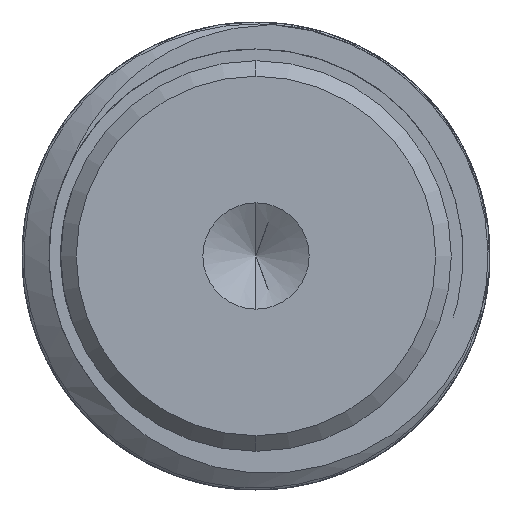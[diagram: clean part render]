
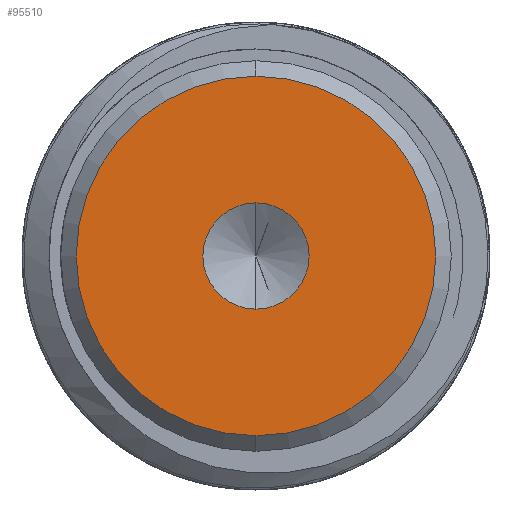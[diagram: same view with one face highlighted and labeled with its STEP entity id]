
A CAD part, left-side view. The second image highlights one B-rep face of the part: STEP entity #95510.
In plain terms, the highlighted planar face has unit normal (-1, 0, 0).
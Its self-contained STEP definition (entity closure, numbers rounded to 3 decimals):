
#2413 = CIRCLE ( 'NONE', #48532, 3.4 ) ;
#5597 = ORIENTED_EDGE ( 'NONE', *, *, #39551, .T. ) ;
#8912 = FACE_BOUND ( 'NONE', #89609, .T. ) ;
#10226 = CARTESIAN_POINT ( 'NONE',  ( -257.25, 12.5, 0. ) ) ;
#10927 = CARTESIAN_POINT ( 'NONE',  ( -257.25, 0., 3.4 ) ) ;
#11683 = VERTEX_POINT ( 'NONE', #61511 ) ;
#13436 = DIRECTION ( 'NONE',  ( -1., 0., 0. ) ) ;
#14199 = VERTEX_POINT ( 'NONE', #18149 ) ;
#16458 = CARTESIAN_POINT ( 'NONE',  ( -257.25, 0., 0. ) ) ;
#18149 = CARTESIAN_POINT ( 'NONE',  ( -257.25, 0., -11.5 ) ) ;
#19528 = VERTEX_POINT ( 'NONE', #10927 ) ;
#19978 = EDGE_CURVE ( 'NONE', #19528, #37742, #2413, .T. ) ;
#26359 = EDGE_LOOP ( 'NONE', ( #35365, #5597 ) ) ;
#28662 = CIRCLE ( 'NONE', #34991, 11.5 ) ;
#34991 = AXIS2_PLACEMENT_3D ( 'NONE', #47291, #85039, #41056 ) ;
#35365 = ORIENTED_EDGE ( 'NONE', *, *, #49199, .T. ) ;
#37742 = VERTEX_POINT ( 'NONE', #88612 ) ;
#37778 = AXIS2_PLACEMENT_3D ( 'NONE', #16458, #46068, #45082 ) ;
#39551 = EDGE_CURVE ( 'NONE', #11683, #14199, #75457, .T. ) ;
#41056 = DIRECTION ( 'NONE',  ( 0., 0., -1. ) ) ;
#41414 = DIRECTION ( 'NONE',  ( 1., 0., 0. ) ) ;
#45082 = DIRECTION ( 'NONE',  ( 0., 0., 1. ) ) ;
#46068 = DIRECTION ( 'NONE',  ( -1., 0., 0. ) ) ;
#47291 = CARTESIAN_POINT ( 'NONE',  ( -257.25, 0., 0. ) ) ;
#47346 = PLANE ( 'NONE',  #66471 ) ;
#47791 = DIRECTION ( 'NONE',  ( 0., 0., 1. ) ) ;
#48532 = AXIS2_PLACEMENT_3D ( 'NONE', #84597, #83964, #47791 ) ;
#49199 = EDGE_CURVE ( 'NONE', #14199, #11683, #28662, .T. ) ;
#55516 = EDGE_CURVE ( 'NONE', #37742, #19528, #93498, .T. ) ;
#61511 = CARTESIAN_POINT ( 'NONE',  ( -257.25, 0., 11.5 ) ) ;
#64866 = DIRECTION ( 'NONE',  ( 0., 0., -1. ) ) ;
#65944 = FACE_OUTER_BOUND ( 'NONE', #26359, .T. ) ;
#66471 = AXIS2_PLACEMENT_3D ( 'NONE', #10226, #41414, #85712 ) ;
#75457 = CIRCLE ( 'NONE', #90940, 11.5 ) ;
#83964 = DIRECTION ( 'NONE',  ( -1., 0., 0. ) ) ;
#84218 = ORIENTED_EDGE ( 'NONE', *, *, #19978, .F. ) ;
#84597 = CARTESIAN_POINT ( 'NONE',  ( -257.25, 0., 0. ) ) ;
#85039 = DIRECTION ( 'NONE',  ( -1., 0., 0. ) ) ;
#85712 = DIRECTION ( 'NONE',  ( 0., 0., -1. ) ) ;
#86699 = CARTESIAN_POINT ( 'NONE',  ( -257.25, 0., 0. ) ) ;
#88612 = CARTESIAN_POINT ( 'NONE',  ( -257.25, 0., -3.4 ) ) ;
#89609 = EDGE_LOOP ( 'NONE', ( #84218, #93156 ) ) ;
#90940 = AXIS2_PLACEMENT_3D ( 'NONE', #86699, #13436, #64866 ) ;
#93156 = ORIENTED_EDGE ( 'NONE', *, *, #55516, .F. ) ;
#93498 = CIRCLE ( 'NONE', #37778, 3.4 ) ;
#95510 = ADVANCED_FACE ( 'NONE', ( #8912, #65944 ), #47346, .F. ) ;
